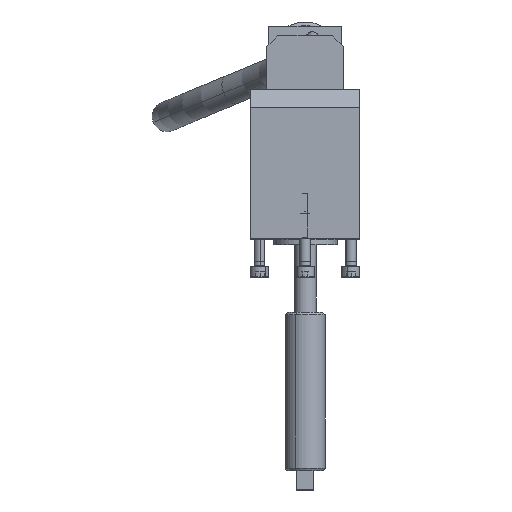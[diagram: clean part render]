
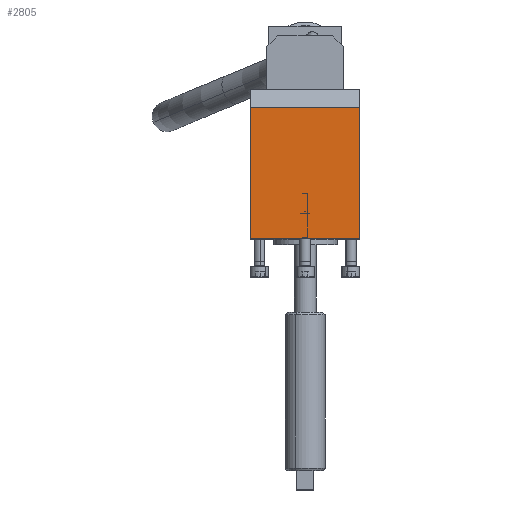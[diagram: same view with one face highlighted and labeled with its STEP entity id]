
A CAD part, top view. The second image highlights one B-rep face of the part: STEP entity #2805.
In plain terms, the highlighted planar face has unit normal (0, 0, 1).
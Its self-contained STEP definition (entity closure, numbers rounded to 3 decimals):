
#2737=CARTESIAN_POINT('Vertex',(-30.,20.,443.12)) ;
#2740=CARTESIAN_POINT('Line Origine',(0.,20.,443.12)) ;
#2744=CARTESIAN_POINT('Vertex',(30.,20.,443.12)) ;
#2759=CARTESIAN_POINT('Axis2P3D Location',(30.,-37.,443.12)) ;
#2764=CARTESIAN_POINT('Line Origine',(30.,-44.5,443.12)) ;
#2768=CARTESIAN_POINT('Vertex',(30.,-37.,443.12)) ;
#2770=CARTESIAN_POINT('Vertex',(30.,-52.,443.12)) ;
#2773=CARTESIAN_POINT('Line Origine',(30.,-8.5,443.12)) ;
#2778=CARTESIAN_POINT('Line Origine',(-30.,-8.5,443.12)) ;
#2782=CARTESIAN_POINT('Vertex',(-30.,-37.,443.12)) ;
#2785=CARTESIAN_POINT('Line Origine',(-30.,-44.5,443.12)) ;
#2789=CARTESIAN_POINT('Vertex',(-30.,-52.,443.12)) ;
#2792=CARTESIAN_POINT('Line Origine',(0.,-52.,443.12)) ;
#2741=DIRECTION('Vector Direction',(-1.,0.,0.)) ;
#2760=DIRECTION('Axis2P3D Direction',(0.,0.,-1.)) ;
#2761=DIRECTION('Axis2P3D XDirection',(-1.,0.,0.)) ;
#2765=DIRECTION('Vector Direction',(0.,-1.,0.)) ;
#2774=DIRECTION('Vector Direction',(0.,1.,0.)) ;
#2779=DIRECTION('Vector Direction',(0.,1.,0.)) ;
#2786=DIRECTION('Vector Direction',(0.,-1.,0.)) ;
#2793=DIRECTION('Vector Direction',(1.,0.,0.)) ;
#2762=AXIS2_PLACEMENT_3D('Plane Axis2P3D',#2759,#2760,#2761) ;
#2798=ORIENTED_EDGE('',*,*,#2772,.F.) ;
#2799=ORIENTED_EDGE('',*,*,#2777,.T.) ;
#2800=ORIENTED_EDGE('',*,*,#2746,.T.) ;
#2801=ORIENTED_EDGE('',*,*,#2784,.F.) ;
#2802=ORIENTED_EDGE('',*,*,#2791,.T.) ;
#2803=ORIENTED_EDGE('',*,*,#2796,.F.) ;
#2742=VECTOR('Line Direction',#2741,1.) ;
#2766=VECTOR('Line Direction',#2765,1.) ;
#2775=VECTOR('Line Direction',#2774,1.) ;
#2780=VECTOR('Line Direction',#2779,1.) ;
#2787=VECTOR('Line Direction',#2786,1.) ;
#2794=VECTOR('Line Direction',#2793,1.) ;
#2805=ADVANCED_FACE('',(#2804),#2763,.F.) ;
#2746=EDGE_CURVE('',#2745,#2738,#2743,.T.) ;
#2772=EDGE_CURVE('',#2769,#2771,#2767,.T.) ;
#2777=EDGE_CURVE('',#2769,#2745,#2776,.T.) ;
#2784=EDGE_CURVE('',#2783,#2738,#2781,.T.) ;
#2791=EDGE_CURVE('',#2783,#2790,#2788,.T.) ;
#2796=EDGE_CURVE('',#2771,#2790,#2795,.F.) ;
#2797=EDGE_LOOP('',(#2798,#2799,#2800,#2801,#2802,#2803)) ;
#2804=FACE_OUTER_BOUND('',#2797,.T.) ;
#2743=LINE('Line',#2740,#2742) ;
#2767=LINE('Line',#2764,#2766) ;
#2776=LINE('Line',#2773,#2775) ;
#2781=LINE('Line',#2778,#2780) ;
#2788=LINE('Line',#2785,#2787) ;
#2795=LINE('Line',#2792,#2794) ;
#2763=PLANE('Plane',#2762) ;
#2738=VERTEX_POINT('',#2737) ;
#2745=VERTEX_POINT('',#2744) ;
#2769=VERTEX_POINT('',#2768) ;
#2771=VERTEX_POINT('',#2770) ;
#2783=VERTEX_POINT('',#2782) ;
#2790=VERTEX_POINT('',#2789) ;
